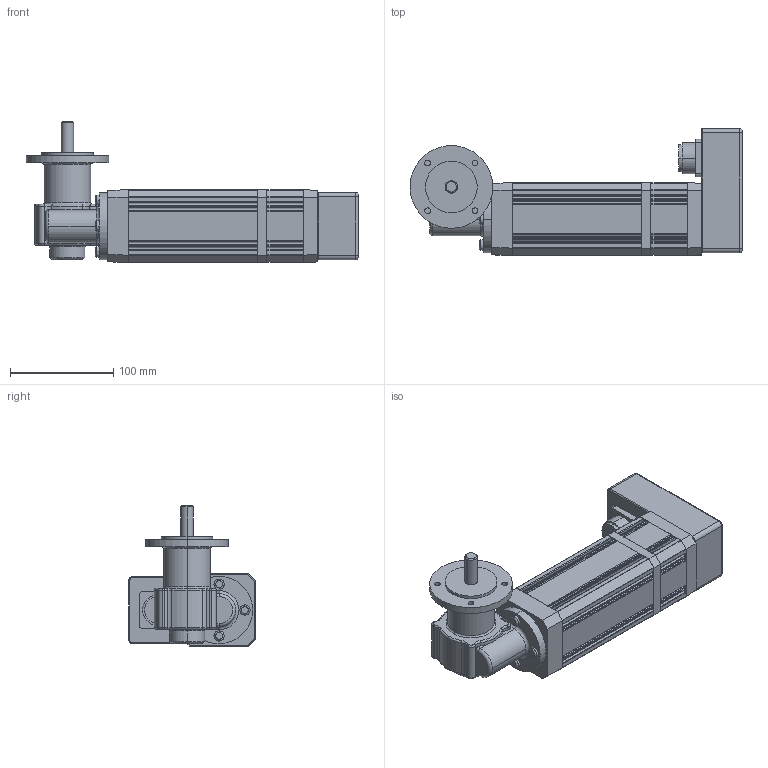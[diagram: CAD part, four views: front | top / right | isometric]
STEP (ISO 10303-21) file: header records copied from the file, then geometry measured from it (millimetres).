
FILE_DESCRIPTION(('OneSpaceDesigner STEP Export'),'2;1');
FILE_NAME('UECG313THL_GF129_F.stp','2008-06-25T10:46:08',(''),(''),'OneSpace Designer STEP processor (Jan. 2003) for AP214(CD)(Solid Model)','OneSpace Designer 12.01D 09-Jul-2004 (C) CoCreate Software GmbH','');
FILE_SCHEMA(('AUTOMOTIVE_DESIGN_CC2 {1 2 10303 214 -1 1 5 1}'));
Length unit declared in the file: millimetre
Products named in the file (2): UECG313THL_GF129-10_F
Assembly tree (1 placements, depth 2):
  UECG313THL_GF129-10_F
    UECG313THL_GF129-10_F
Bounding box: 321 x 122.6 x 136.1 mm (x, y, z)
Volume: 1566773.2 mm3; surface area: 141346.3 mm2
Topology: 1 solids, 1 shells, 474 faces, 1278 edges, 823 vertices
Faces by surface type: cylinder 217, plane 179, torus 74, cone 4
Entity records: 14719 total; most frequent: CARTESIAN_POINT 3282, ORIENTED_EDGE 2556, DIRECTION 2285, EDGE_CURVE 1278, VERTEX_POINT 823, AXIS2_PLACEMENT_3D 815, VECTOR 655, LINE 655
